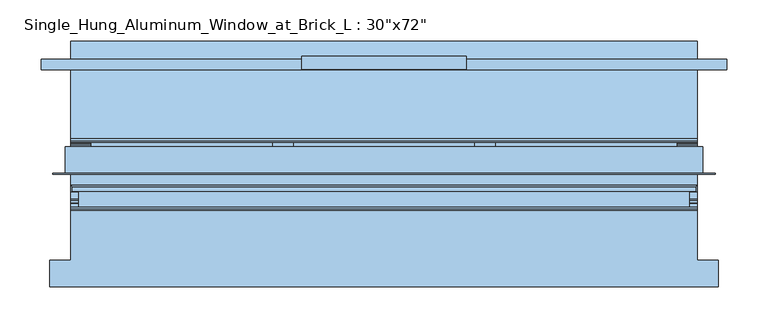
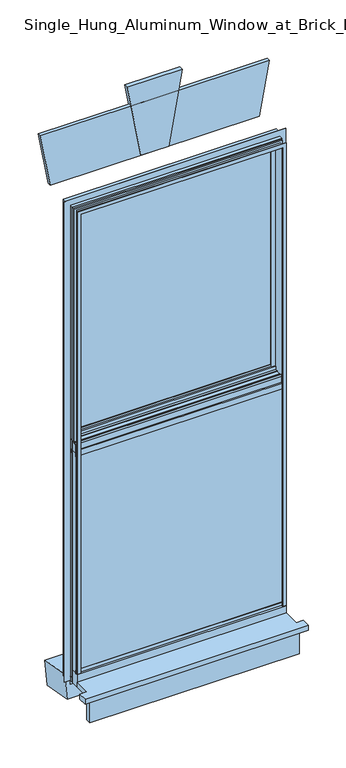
"""IFC4 building model written with IfcOpenShell, lengths in millimetres: window geometry."""

from ifc_helpers import new_model, si_unit, frame, origin, place, context, project, spatial, polyline, outline, extrude, faceted_brep, source, transform, mapped, element, save


def window_0bb131d8(model_context):
    return source(origin(), model_context, "Body", "SolidModel", [
        extrude(outline(polyline([(1079.5, -42.5661667), (1079.5, -262.7418333), (1491.5841185, -262.7418333), (1491.5841185, -288.1418333), (1079.5, -288.1418333), (1079.5, -508.3175), (1054.1, -508.3175), (1054.1, -288.1418333), (669.0294355, -288.1418333), (669.0294355, -262.7418333), (1054.1, -262.7418333), (1054.1, -42.5661667), (669.0294355, -42.5661667), (669.0294355, -17.1661667), (1054.1, -17.1661667), (1054.1, 203.0095), (1079.5, 203.0095), (1079.5, -17.1661667), (1491.5841185, -17.1661667), (1491.5841185, -42.5661667), (1079.5, -42.5661667)])), frame((0.0, -25.2095, 0.0), z_axis=(0.0, 1.0, 0.0), x_axis=(0.0, 0.0, 1.0)), (0.0, 0.0, 1.0), 6.35),
        extrude(outline(polyline([(228.346, -44.2595), (-533.654, -44.2595), (-533.654, -25.2095), (228.346, -25.2095), (228.346, -44.2595)])), frame((0.0, 0.0, 657.928783), z_axis=(0.0, 0.0, 1.0), x_axis=(1.0, 0.0, 0.0)), (0.0, 0.0, 1.0), 844.5594137),
        extrude(outline(polyline([(0.0, -762.0), (0.0, 0.0), (127.0, 0.0), (127.0, -762.0), (0.0, -762.0)])), frame((228.346, 134.9375, 501.4130908), z_axis=(0.0, 0.17364817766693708, 0.9848077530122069), x_axis=(0.0, -0.9848077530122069, 0.17364817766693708)), (0.0, 0.0, 1.0), 88.9),
        extrude(outline(polyline([(1993.9, -42.5661667), (1993.9, -262.7418333), (2413.0635, -262.7418333), (2413.0635, -288.1418333), (1993.9, -288.1418333), (1993.9, -508.3175), (1968.5, -508.3175), (1968.5, -288.1418333), (1560.9971728, -288.1418333), (1560.9971728, -262.7418333), (1968.5, -262.7418333), (1968.5, -42.5661667), (1560.9971728, -42.5661667), (1560.9971728, -17.1661667), (1968.5, -17.1661667), (1968.5, 203.0095), (1993.9, 203.0095), (1993.9, -17.1661667), (2413.0635, -17.1661667), (2413.0635, -42.5661667), (1993.9, -42.5661667)])), frame((0.0, 20.62734, 0.0), z_axis=(0.0, 1.0, 0.0), x_axis=(0.0, 0.0, 1.0)), (0.0, 0.0, 1.0), 6.35),
        faceted_brep([(-533.654, -134.9375, 609.6), (-533.654, -134.9375, 520.7), (228.346, -134.9375, 520.7), (228.346, -134.9375, 609.6), (228.346, -115.8875, 609.6), (228.346, -115.8875, 520.7), (-533.654, -115.8875, 520.7), (-533.654, -115.8875, 609.6), (-533.654, -115.8875, 628.65), (-559.054, -115.8875, 628.65), (-559.054, -147.6375, 628.65), (253.746, -147.6375, 628.65), (253.746, -115.8875, 628.65), (228.346, -115.8875, 628.65), (228.346, -54.76748, 628.65), (-533.654, -54.76748, 628.65), (-533.654, -54.76748, 609.6), (228.346, -54.76748, 609.6), (253.746, -115.8875, 609.6), (253.746, -147.6375, 609.6), (-559.054, -147.6375, 609.6), (-559.054, -115.8875, 609.6)], [[[0, 1, 2, 3]], [[4, 5, 6, 7]], [[1, 0, 7, 6]], [[2, 1, 6, 5]], [[3, 2, 5, 4]], [[8, 9, 10, 11, 12, 13, 14, 15]], [[7, 16, 17, 4]], [[4, 18, 19, 20, 21, 7, 0, 3]], [[9, 8, 7, 21]], [[10, 9, 21, 20]], [[11, 10, 20, 19]], [[12, 11, 19, 18]], [[13, 12, 18, 4]], [[14, 13, 4, 17]], [[15, 14, 17, 16]], [[8, 15, 16, 7]]]),
        extrude(outline(polyline([(2438.4, -203.454), (2438.4, -101.854), (2717.8, -52.5882416), (2717.8, -252.7197584), (2438.4, -203.454)])), frame((0.0, 115.8875, 0.0), z_axis=(0.0, 1.0, 0.0), x_axis=(0.0, 0.0, 1.0)), (0.0, 0.0, 1.0), 15.875),
        extrude(outline(polyline([(22.2862775, 610.4820753), (20.8892775, 610.4820753), (20.8892775, 619.1131897), (-8.1501428, 624.9501789), (-8.1501428, 617.46384), (-9.7155, 617.46384), (-9.7155, 593.4920067), (-11.1125, 593.4920067), (-11.1125, 609.6), (-54.76748, 609.6), (-54.76748, 656.7840639), (-46.7343204, 656.7840639), (-45.9923583, 668.7754355), (-44.2595, 668.7754355), (-44.2595, 657.928783), (-25.2095, 657.928783), (-25.2095, 669.0294355), (-23.55977, 669.0294355), (-23.55977, 631.7373335), (-21.5449122, 631.7373335), (-21.5449122, 628.1152408), (20.8892775, 620.5121435), (20.8892775, 625.8673363), (22.2862775, 625.8673363), (22.2862775, 610.4820753)])), frame((-533.654, 0.0, 0.0), z_axis=(1.0, 0.0, 0.0), x_axis=(0.0, 1.0, 0.0)), (0.0, 0.0, 1.0), 762.0),
        extrude(outline(polyline([(2438.4, -152.654), (2641.6, -152.654), (2641.6, -569.4836425), (2438.4, -533.654), (2438.4, -152.654)])), frame((0.0, 115.8875, 0.0), z_axis=(0.0, 1.0, 0.0), x_axis=(0.0, 0.0, 1.0)), (0.0, 0.0, 1.0), 12.7),
        extrude(outline(polyline([(2438.4, -152.654), (2438.4, 228.346), (2641.6, 264.1756425), (2641.6, -152.654), (2438.4, -152.654)])), frame((0.0, 115.8875, 0.0), z_axis=(0.0, 1.0, 0.0), x_axis=(0.0, 0.0, 1.0)), (0.0, 0.0, 1.0), 12.7),
        extrude(outline(polyline([(29.1076623, 1516.2580422), (29.1076623, 1513.4337301), (31.6507812, 1513.4337301), (31.6507812, 1504.7977301), (-19.1841368, 1504.7977301), (-20.5729434, 1491.5841185), (-25.2095, 1491.5841185), (-25.2095, 1502.4881967), (-44.2595, 1502.4881967), (-44.2595, 1491.3494954), (-45.9105, 1491.3494954), (-45.9105, 1512.0694378), (-41.0458378, 1512.0694378), (-41.0458378, 1536.2448351), (-42.6968378, 1536.2448351), (-42.6968378, 1544.0615975), (-41.4366109, 1544.0615975), (-41.4366109, 1537.8245971), (-32.3608959, 1537.8245971), (-32.3608959, 1539.168978), (-16.4381161, 1539.168978), (-16.4381161, 1541.1761223), (-7.2478191, 1541.1761223), (-7.2478191, 1553.3441151), (-0.5975908, 1553.3441151), (-0.5975908, 1561.2206916), (1.0521392, 1561.3071503), (1.0521392, 1552.0106151), (20.62734, 1552.0106151), (20.62734, 1560.9971728), (23.7629054, 1560.9971728), (24.5014336, 1546.9052151), (25.5597102, 1546.9052151), (25.5597102, 1544.1477831), (20.1876025, 1544.1477831), (20.1876025, 1514.8307301), (27.7113333, 1514.8307301), (27.7113333, 1516.2580422), (29.1076623, 1516.2580422)])), frame((-533.654, 0.0, 0.0), z_axis=(1.0, 0.0, 0.0), x_axis=(0.0, 1.0, 0.0)), (0.0, 0.0, 1.0), 762.0),
        extrude(outline(polyline([(-508.3175, 20.62734), (203.0095, 20.62734), (203.0095, 1.0521392), (-508.3175, 1.0521392), (-508.3175, 20.62734)])), frame((0.0, 0.0, 1560.9971728), z_axis=(0.0, 0.0, 1.0), x_axis=(1.0, 0.0, 0.0)), (0.0, 0.0, 1.0), 852.0663272),
        faceted_brep([(234.95, 22.27834, 609.6), (234.95, -10.0965052, 609.6), (250.2538763, -10.0965052, 609.6), (250.2538763, -11.1125, 609.6), (228.346, -11.1125, 609.6), (228.346, -24.1541833, 609.6), (226.0613233, -26.43886, 609.6), (226.0613233, -32.02686, 609.6), (218.6938381, -32.02686, 609.6), (218.6938381, -51.7541571, 609.6), (228.346, -51.7541571, 609.6), (228.346, -53.37048, 609.6), (214.8903616, -53.37048, 609.6), (214.8903616, -51.7541571, 609.6), (217.297, -51.7541571, 609.6), (217.297, -3.7635699, 609.6), (203.0095, -3.7635699, 609.6), (203.0095, 1.0521392, 609.6), (217.297, 1.0521392, 609.6), (217.297, 20.62734, 609.6), (203.0095, 20.62734, 609.6), (203.0095, 22.27834, 609.6), (234.95, 22.27834, 2445.004), (234.95, -10.0965052, 2445.004), (-540.258, -10.0965052, 2445.004), (-540.258, -10.0965052, 609.346), (-555.5618763, -10.0965052, 609.346), (-555.5618763, -10.0965052, 2460.3078763), (250.2538763, -10.0965052, 2460.3078763), (250.2538763, -11.1125, 2460.3078763), (-555.5618763, -11.1125, 2460.3078763), (-555.5618763, -11.1125, 609.346), (-533.654, -11.1125, 609.346), (-533.654, -11.1125, 2438.4), (228.346, -11.1125, 2438.4), (228.346, -24.1541833, 2438.4), (226.0613233, -26.43886, 2436.1153233), (226.0613233, -32.02686, 2436.1153233), (-531.3693233, -32.02686, 2436.1153233), (-531.3693233, -32.02686, 609.346), (-524.0018381, -32.02686, 609.346), (-524.0018381, -32.02686, 2428.7478381), (218.6938381, -32.02686, 2428.7478381), (218.6938381, -51.7541571, 2428.7478381), (-524.0018381, -51.7541571, 2428.7478381), (-524.0018381, -51.7541571, 609.346), (-533.654, -51.7541571, 609.346), (-533.654, -51.7541571, 2438.4), (228.346, -51.7541571, 2438.4), (228.346, -53.37048, 2438.4), (-533.654, -53.37048, 2438.4), (-533.654, -53.37048, 609.346), (-520.1983616, -53.37048, 609.346), (-520.1983616, -53.37048, 2424.9443616), (214.8903616, -53.37048, 2424.9443616), (214.8903616, -51.7541571, 2424.9443616), (-520.1983616, -51.7541571, 2424.9443616), (-520.1983616, -51.7541571, 609.346), (-522.605, -51.7541571, 609.346), (-522.605, -51.7541571, 2427.351), (217.297, -51.7541571, 2427.351), (217.297, -3.7635699, 2427.351), (-522.605, -3.7635699, 2427.351), (-522.605, -3.7635699, 609.346), (-508.3175, -3.7635699, 609.346), (-508.3175, -3.7635699, 2413.0635), (203.0095, -3.7635699, 2413.0635), (203.0095, 1.0521392, 2413.0635), (-508.3175, 1.0521392, 2413.0635), (-508.3175, 1.0521392, 609.346), (-522.605, 1.0521392, 609.346), (-522.605, 1.0521392, 2427.351), (217.297, 1.0521392, 2427.351), (217.297, 20.62734, 2427.351), (-522.605, 20.62734, 2427.351), (-522.605, 20.62734, 609.346), (-508.3175, 20.62734, 609.346), (-508.3175, 20.62734, 2413.0635), (203.0095, 20.62734, 2413.0635), (203.0095, 22.27834, 2413.0635), (-508.3175, 22.27834, 2413.0635), (-508.3175, 22.27834, 609.346), (-540.258, 22.27834, 609.346), (-540.258, 22.27834, 2445.004), (-533.654, -24.1541833, 2438.4), (-531.3693233, -26.43886, 2436.1153233), (-531.3693233, -26.43886, 609.346), (-533.654, -24.1541833, 609.346)], [[[0, 1, 2, 3, 4, 5, 6, 7, 8, 9, 10, 11, 12, 13, 14, 15, 16, 17, 18, 19, 20, 21]], [[1, 0, 22, 23]], [[2, 1, 23, 24, 25, 26, 27, 28]], [[3, 2, 28, 29]], [[4, 3, 29, 30, 31, 32, 33, 34]], [[5, 4, 34, 35]], [[6, 5, 35, 36]], [[7, 6, 36, 37]], [[8, 7, 37, 38, 39, 40, 41, 42]], [[9, 8, 42, 43]], [[10, 9, 43, 44, 45, 46, 47, 48]], [[11, 10, 48, 49]], [[12, 11, 49, 50, 51, 52, 53, 54]], [[13, 12, 54, 55]], [[14, 13, 55, 56, 57, 58, 59, 60]], [[15, 14, 60, 61]], [[16, 15, 61, 62, 63, 64, 65, 66]], [[17, 16, 66, 67]], [[18, 17, 67, 68, 69, 70, 71, 72]], [[19, 18, 72, 73]], [[20, 19, 73, 74, 75, 76, 77, 78]], [[21, 20, 78, 79]], [[0, 21, 79, 80, 81, 82, 83, 22]], [[23, 22, 83, 24]], [[29, 28, 27, 30]], [[35, 34, 33, 84]], [[36, 35, 84, 85]], [[37, 36, 85, 38]], [[43, 42, 41, 44]], [[49, 48, 47, 50]], [[55, 54, 53, 56]], [[61, 60, 59, 62]], [[67, 66, 65, 68]], [[73, 72, 71, 74]], [[79, 78, 77, 80]], [[82, 81, 76, 75, 70, 69, 64, 63, 58, 57, 52, 51, 46, 45, 40, 39, 86, 87, 32, 31, 26, 25]], [[24, 83, 82, 25]], [[30, 27, 26, 31]], [[84, 33, 32, 87]], [[85, 84, 87, 86]], [[38, 85, 86, 39]], [[44, 41, 40, 45]], [[50, 47, 46, 51]], [[56, 53, 52, 57]], [[62, 59, 58, 63]], [[68, 65, 64, 69]], [[74, 71, 70, 75]], [[80, 77, 76, 81]]]),
    ])


if __name__ == "__main__":
    model = new_model("IFC4")
    model_context = context("Model", 3, world=origin())
    ifc_project = project(units=[si_unit("LENGTHUNIT", "METRE", prefix="MILLI")], contexts=[model_context])
    site = spatial("IfcSite", under=ifc_project)
    building = spatial("IfcBuilding", under=site)
    placement = place(None, origin())
    window_shape = window_0bb131d8(model_context)
    element("IfcWindow", 1, ObjectType="Single_Hung_Aluminum_Window_at_Brick_L : 30\"x72\"", at=placement, inside=building, context=model_context, shape_type="MappedRepresentation", body=[
        mapped(window_shape, transform((0.0, 0.0, 0.0), x_axis=(1.0, 0.0, 0.0), y_axis=(0.0, 1.0, 0.0), z_axis=(0.0, 0.0, 1.0))),
    ])
    save(model, "model.ifc")
